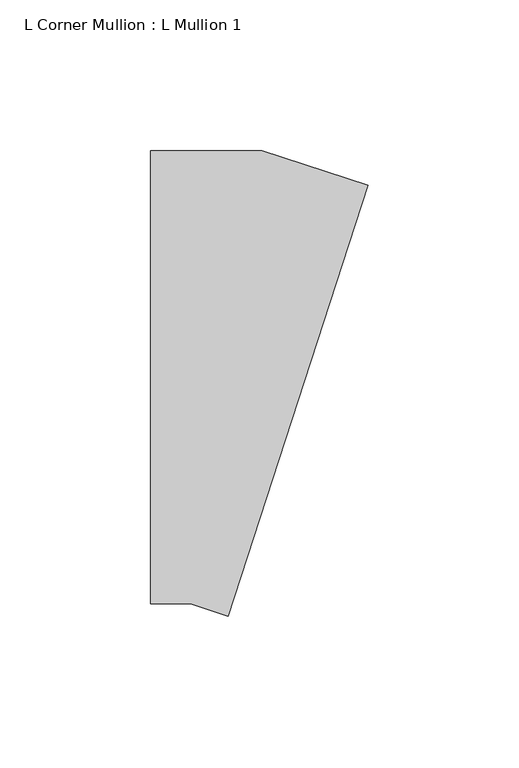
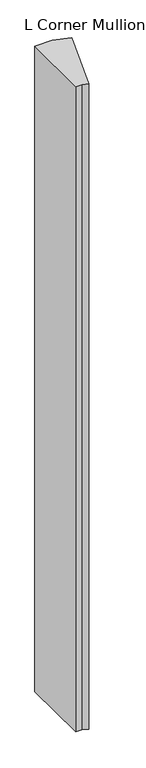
"""IFC4 building model written with IfcOpenShell, lengths in millimetres: member geometry, L Corner Mullion : L Mullion 1."""

from ifc_helpers import new_model, si_unit, frame, origin, place, context, project, spatial, polyline, outline, extrude, source, transform, mapped, element, save


def l_corner_mullion_l_mullion_1_2857d8cb(model_context):
    return source(origin(), model_context, "Body", "SweptSolid", [
        extrude(outline(polyline([(0.6001383, -79.0546636), (-11.878833, -75.0), (-25.0, -75.0), (-25.0, 75.0), (11.878833, 75.0), (46.9526875, 63.6038139), (0.6001383, -79.0546636)])), frame((0.0, 0.0, -1450.0), z_axis=(0.0, 0.0, 1.0), x_axis=(1.0, 0.0, 0.0)), (0.0, 0.0, 1.0), 1450.0),
    ])


if __name__ == "__main__":
    model = new_model("IFC4")
    model_context = context("Model", 3, world=origin())
    ifc_project = project(units=[si_unit("LENGTHUNIT", "METRE", prefix="MILLI")], contexts=[model_context])
    site = spatial("IfcSite", under=ifc_project)
    building = spatial("IfcBuilding", under=site)
    placement = place(None, origin())
    l_corner_mullion_l_mullion_1_shape = l_corner_mullion_l_mullion_1_2857d8cb(model_context)
    element("IfcMember", 1, ObjectType="L Corner Mullion : L Mullion 1", at=placement, inside=building, context=model_context, shape_type="MappedRepresentation", body=[
        mapped(l_corner_mullion_l_mullion_1_shape, transform((0.0, 0.0, 0.0), x_axis=(1.0, 0.0, 0.0), y_axis=(0.0, 1.0, 0.0), z_axis=(0.0, 0.0, 1.0))),
    ])
    save(model, "model.ifc")
